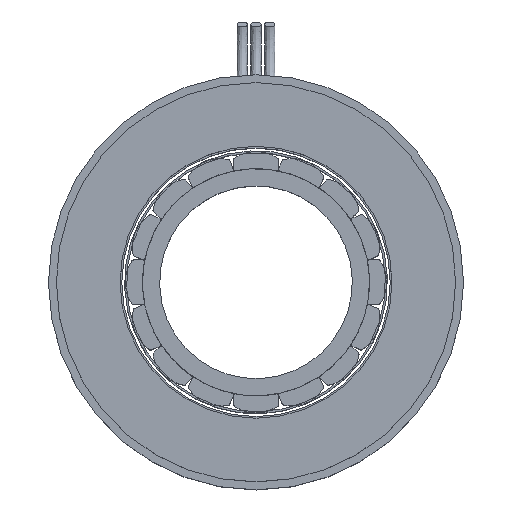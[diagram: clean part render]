
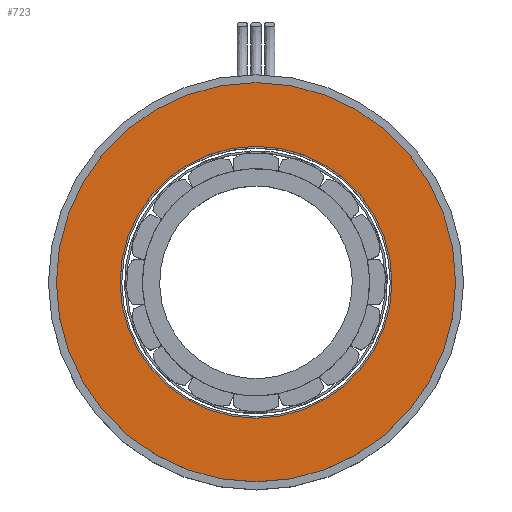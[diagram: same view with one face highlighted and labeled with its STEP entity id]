
A CAD part, top view. The second image highlights one B-rep face of the part: STEP entity #723.
In plain terms, the highlighted planar face has unit normal (0, 0, 1).
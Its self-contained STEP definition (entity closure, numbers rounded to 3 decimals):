
#34 = CARTESIAN_POINT ( 'NONE',  ( -29., 0., 12.5 ) ) ;
#157 = DIRECTION ( 'NONE',  ( 1., 0., 0. ) ) ;
#305 = CARTESIAN_POINT ( 'NONE',  ( 0., 0., 12.5 ) ) ;
#312 = AXIS2_PLACEMENT_3D ( 'NONE', #731, #2750, #2316 ) ;
#339 = EDGE_LOOP ( 'NONE', ( #955, #1060 ) ) ;
#376 = EDGE_CURVE ( 'NONE', #2157, #2274, #1561, .T. ) ;
#407 = DIRECTION ( 'NONE',  ( 0., 0., 1. ) ) ;
#426 = FACE_BOUND ( 'NONE', #339, .T. ) ;
#499 = VERTEX_POINT ( 'NONE', #2455 ) ;
#525 = EDGE_CURVE ( 'NONE', #2274, #2157, #808, .T. ) ;
#623 = ORIENTED_EDGE ( 'NONE', *, *, #525, .T. ) ;
#723 = ADVANCED_FACE ( 'NONE', ( #426, #772 ), #2666, .T. ) ;
#731 = CARTESIAN_POINT ( 'NONE',  ( 0., 0., 12.5 ) ) ;
#772 = FACE_OUTER_BOUND ( 'NONE', #2780, .T. ) ;
#808 = CIRCLE ( 'NONE', #2492, 29. ) ;
#888 = DIRECTION ( 'NONE',  ( 0., 0., 1. ) ) ;
#955 = ORIENTED_EDGE ( 'NONE', *, *, #1036, .F. ) ;
#1036 = EDGE_CURVE ( 'NONE', #1063, #499, #1566, .T. ) ;
#1060 = ORIENTED_EDGE ( 'NONE', *, *, #1241, .F. ) ;
#1063 = VERTEX_POINT ( 'NONE', #2543 ) ;
#1118 = CARTESIAN_POINT ( 'NONE',  ( 0., 0., 12.5 ) ) ;
#1218 = AXIS2_PLACEMENT_3D ( 'NONE', #1118, #888, #1357 ) ;
#1225 = AXIS2_PLACEMENT_3D ( 'NONE', #1477, #1486, #1459 ) ;
#1241 = EDGE_CURVE ( 'NONE', #499, #1063, #2020, .T. ) ;
#1314 = AXIS2_PLACEMENT_3D ( 'NONE', #305, #2130, #2788 ) ;
#1357 = DIRECTION ( 'NONE',  ( 1., 0., 0. ) ) ;
#1383 = ORIENTED_EDGE ( 'NONE', *, *, #376, .T. ) ;
#1459 = DIRECTION ( 'NONE',  ( 1., 0., 0. ) ) ;
#1477 = CARTESIAN_POINT ( 'NONE',  ( 0., 0., 12.5 ) ) ;
#1486 = DIRECTION ( 'NONE',  ( 0., 0., 1. ) ) ;
#1561 = CIRCLE ( 'NONE', #1314, 29. ) ;
#1566 = CIRCLE ( 'NONE', #312, 19.75 ) ;
#2020 = CIRCLE ( 'NONE', #1225, 19.75 ) ;
#2130 = DIRECTION ( 'NONE',  ( 0., 0., 1. ) ) ;
#2157 = VERTEX_POINT ( 'NONE', #34 ) ;
#2274 = VERTEX_POINT ( 'NONE', #2547 ) ;
#2316 = DIRECTION ( 'NONE',  ( 1., 0., 0. ) ) ;
#2455 = CARTESIAN_POINT ( 'NONE',  ( -19.75, 0., 12.5 ) ) ;
#2492 = AXIS2_PLACEMENT_3D ( 'NONE', #2895, #407, #157 ) ;
#2543 = CARTESIAN_POINT ( 'NONE',  ( 19.75, 0., 12.5 ) ) ;
#2547 = CARTESIAN_POINT ( 'NONE',  ( 29., 0., 12.5 ) ) ;
#2666 = PLANE ( 'NONE',  #1218 ) ;
#2750 = DIRECTION ( 'NONE',  ( 0., 0., 1. ) ) ;
#2780 = EDGE_LOOP ( 'NONE', ( #623, #1383 ) ) ;
#2788 = DIRECTION ( 'NONE',  ( 1., 0., 0. ) ) ;
#2895 = CARTESIAN_POINT ( 'NONE',  ( 0., 0., 12.5 ) ) ;
